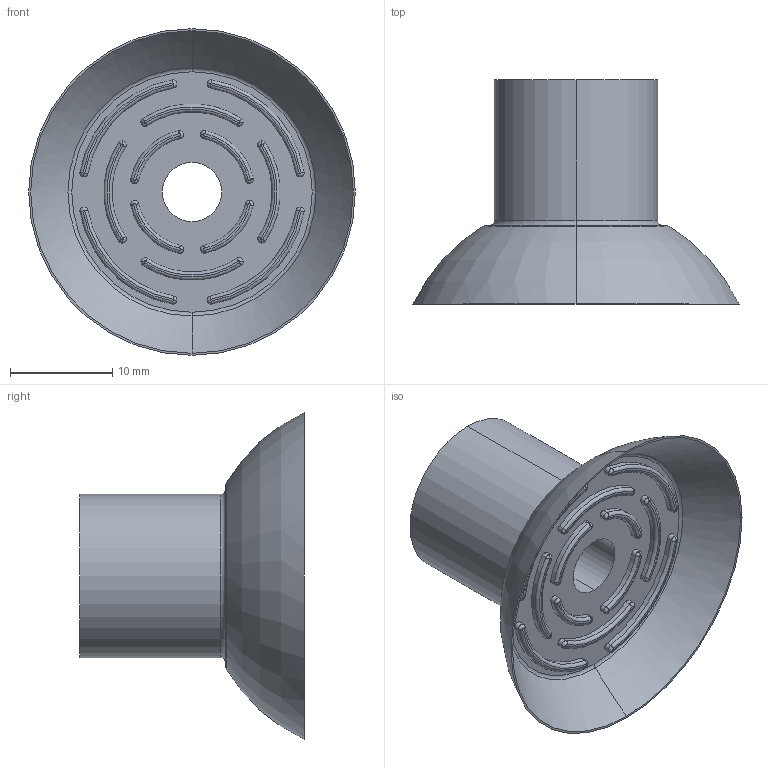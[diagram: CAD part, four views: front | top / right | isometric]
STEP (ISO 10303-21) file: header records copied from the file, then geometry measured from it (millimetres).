
FILE_DESCRIPTION (( 'STEP AP203' ), '1' );
FILE_NAME ('72_33--A.STEP', '2016-10-04T09:20:34', ( '' ), ( '' ), 'SwSTEP 2.0', 'SolidWorks 2016', '' );
FILE_SCHEMA (( 'CONFIG_CONTROL_DESIGN' ));
Length unit declared in the file: millimetre
Products named in the file (1): 72_33--A
Bounding box: 32 x 22 x 32 mm (x, y, z)
Volume: 4049.3 mm3; surface area: 3249 mm2
Topology: 1 solids, 1 shells, 162 faces, 372 edges, 226 vertices
Faces by surface type: torus 82, cylinder 64, plane 16
Entity records: 4777 total; most frequent: DIRECTION 1006, CARTESIAN_POINT 761, ORIENTED_EDGE 744, AXIS2_PLACEMENT_3D 471, EDGE_CURVE 372, CIRCLE 308, VERTEX_POINT 226, EDGE_LOOP 178
